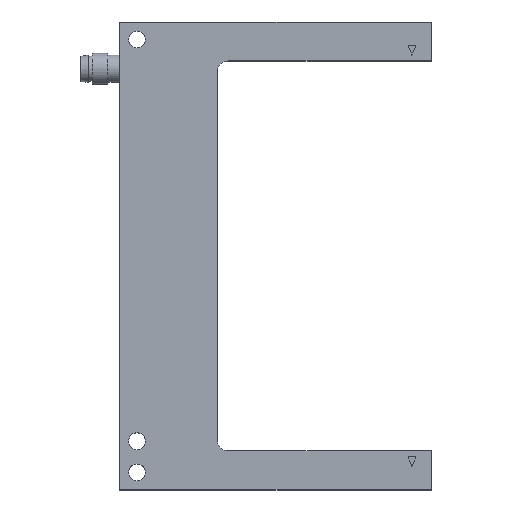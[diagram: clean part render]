
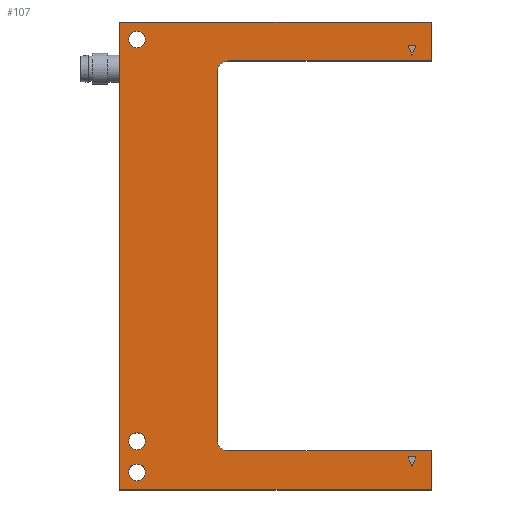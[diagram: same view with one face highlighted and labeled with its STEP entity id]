
A CAD part, top view. The second image highlights one B-rep face of the part: STEP entity #107.
In plain terms, the highlighted planar face has unit normal (0, 0, 1).
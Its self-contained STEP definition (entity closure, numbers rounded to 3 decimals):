
#107=ADVANCED_FACE('',(#216,#217,#218,#219,#220,#221),#143,.T.);
#143=PLANE('',#749);
#152=CIRCLE('',#697,3.);
#153=CIRCLE('',#699,2.15);
#155=CIRCLE('',#702,2.15);
#157=CIRCLE('',#705,2.15);
#172=CIRCLE('',#748,3.);
#216=FACE_BOUND('',#290,.T.);
#217=FACE_BOUND('',#291,.T.);
#218=FACE_BOUND('',#292,.T.);
#219=FACE_BOUND('',#293,.T.);
#220=FACE_BOUND('',#294,.T.);
#221=FACE_BOUND('',#295,.T.);
#290=EDGE_LOOP('',(#426,#427,#428,#429,#430,#431,#432,#433,#434,#435));
#291=EDGE_LOOP('',(#436,#437,#438));
#292=EDGE_LOOP('',(#439,#440,#441));
#293=EDGE_LOOP('',(#442));
#294=EDGE_LOOP('',(#443));
#295=EDGE_LOOP('',(#444));
#426=ORIENTED_EDGE('',*,*,#580,.F.);
#427=ORIENTED_EDGE('',*,*,#591,.F.);
#428=ORIENTED_EDGE('',*,*,#558,.F.);
#429=ORIENTED_EDGE('',*,*,#589,.F.);
#430=ORIENTED_EDGE('',*,*,#586,.F.);
#431=ORIENTED_EDGE('',*,*,#583,.F.);
#432=ORIENTED_EDGE('',*,*,#538,.F.);
#433=ORIENTED_EDGE('',*,*,#535,.F.);
#434=ORIENTED_EDGE('',*,*,#594,.T.);
#435=ORIENTED_EDGE('',*,*,#528,.F.);
#436=ORIENTED_EDGE('',*,*,#564,.T.);
#437=ORIENTED_EDGE('',*,*,#570,.T.);
#438=ORIENTED_EDGE('',*,*,#567,.T.);
#439=ORIENTED_EDGE('',*,*,#573,.T.);
#440=ORIENTED_EDGE('',*,*,#579,.T.);
#441=ORIENTED_EDGE('',*,*,#576,.T.);
#442=ORIENTED_EDGE('',*,*,#544,.T.);
#443=ORIENTED_EDGE('',*,*,#542,.T.);
#444=ORIENTED_EDGE('',*,*,#540,.T.);
#468=VERTEX_POINT('',#975);
#469=VERTEX_POINT('',#976);
#475=VERTEX_POINT('',#989);
#476=VERTEX_POINT('',#991);
#478=VERTEX_POINT('',#997);
#479=VERTEX_POINT('',#1001);
#481=VERTEX_POINT('',#1006);
#483=VERTEX_POINT('',#1011);
#497=VERTEX_POINT('',#1049);
#498=VERTEX_POINT('',#1050);
#503=VERTEX_POINT('',#1063);
#504=VERTEX_POINT('',#1065);
#506=VERTEX_POINT('',#1071);
#509=VERTEX_POINT('',#1082);
#510=VERTEX_POINT('',#1084);
#512=VERTEX_POINT('',#1090);
#513=VERTEX_POINT('',#1098);
#515=VERTEX_POINT('',#1104);
#517=VERTEX_POINT('',#1110);
#528=EDGE_CURVE('',#468,#469,#604,.T.);
#535=EDGE_CURVE('',#475,#476,#610,.T.);
#538=EDGE_CURVE('',#476,#478,#152,.T.);
#540=EDGE_CURVE('',#479,#479,#153,.T.);
#542=EDGE_CURVE('',#481,#481,#155,.T.);
#544=EDGE_CURVE('',#483,#483,#157,.T.);
#558=EDGE_CURVE('',#497,#498,#613,.T.);
#564=EDGE_CURVE('',#504,#503,#619,.T.);
#567=EDGE_CURVE('',#506,#504,#622,.T.);
#570=EDGE_CURVE('',#503,#506,#625,.T.);
#573=EDGE_CURVE('',#510,#509,#628,.T.);
#576=EDGE_CURVE('',#512,#510,#631,.T.);
#579=EDGE_CURVE('',#509,#512,#634,.T.);
#580=EDGE_CURVE('',#513,#468,#635,.T.);
#583=EDGE_CURVE('',#478,#515,#638,.T.);
#586=EDGE_CURVE('',#515,#517,#641,.T.);
#589=EDGE_CURVE('',#517,#497,#644,.T.);
#591=EDGE_CURVE('',#498,#513,#646,.T.);
#594=EDGE_CURVE('',#475,#469,#172,.T.);
#604=LINE('',#974,#648);
#610=LINE('',#990,#654);
#613=LINE('',#1048,#657);
#619=LINE('',#1064,#663);
#622=LINE('',#1070,#666);
#625=LINE('',#1075,#669);
#628=LINE('',#1083,#672);
#631=LINE('',#1089,#675);
#634=LINE('',#1094,#678);
#635=LINE('',#1097,#679);
#638=LINE('',#1103,#682);
#641=LINE('',#1109,#685);
#644=LINE('',#1115,#688);
#646=LINE('',#1119,#690);
#648=VECTOR('',#773,1.);
#654=VECTOR('',#783,1.);
#657=VECTOR('',#854,1.);
#663=VECTOR('',#866,1.);
#666=VECTOR('',#871,1.);
#669=VECTOR('',#876,1.);
#672=VECTOR('',#883,1.);
#675=VECTOR('',#888,1.);
#678=VECTOR('',#893,1.);
#679=VECTOR('',#898,1.);
#682=VECTOR('',#903,1.);
#685=VECTOR('',#908,1.);
#688=VECTOR('',#913,1.);
#690=VECTOR('',#919,1.);
#697=AXIS2_PLACEMENT_3D('',#996,#789,#790);
#699=AXIS2_PLACEMENT_3D('',#1000,#794,#795);
#702=AXIS2_PLACEMENT_3D('',#1005,#800,#801);
#705=AXIS2_PLACEMENT_3D('',#1010,#806,#807);
#748=AXIS2_PLACEMENT_3D('',#1124,#927,#928);
#749=AXIS2_PLACEMENT_3D('',#1125,#929,#930);
#773=DIRECTION('',(-1.,0.,0.));
#783=DIRECTION('',(0.,-1.,0.));
#789=DIRECTION('',(0.,0.,1.));
#790=DIRECTION('',(-0.707,-0.707,0.));
#794=DIRECTION('',(0.,0.,-1.));
#795=DIRECTION('',(-1.,0.,0.));
#800=DIRECTION('',(0.,0.,-1.));
#801=DIRECTION('',(-1.,0.,0.));
#806=DIRECTION('',(0.,0.,-1.));
#807=DIRECTION('',(-1.,0.,0.));
#854=DIRECTION('',(0.,1.,0.));
#866=DIRECTION('',(-0.371,-0.928,0.));
#871=DIRECTION('',(1.,0.,0.));
#876=DIRECTION('',(-0.371,0.928,0.));
#883=DIRECTION('',(1.,0.,0.));
#888=DIRECTION('',(-0.371,0.928,0.));
#893=DIRECTION('',(-0.371,-0.928,0.));
#898=DIRECTION('',(0.,-1.,0.));
#903=DIRECTION('',(1.,0.,0.));
#908=DIRECTION('',(0.,-1.,0.));
#913=DIRECTION('',(-1.,0.,0.));
#919=DIRECTION('',(1.,0.,0.));
#927=DIRECTION('',(0.,0.,-1.));
#928=DIRECTION('',(1.,0.,0.));
#929=DIRECTION('',(0.,0.,1.));
#930=DIRECTION('',(-1.,0.,0.));
#974=CARTESIAN_POINT('',(48.54,15.013,10.));
#975=CARTESIAN_POINT('',(48.54,15.013,10.));
#976=CARTESIAN_POINT('',(-3.46,15.013,10.));
#989=CARTESIAN_POINT('',(-6.46,12.013,10.));
#990=CARTESIAN_POINT('',(-6.46,15.013,10.));
#991=CARTESIAN_POINT('',(-6.46,-81.987,10.));
#996=CARTESIAN_POINT('',(-3.46,-81.987,10.));
#997=CARTESIAN_POINT('',(-3.46,-84.987,10.));
#1000=CARTESIAN_POINT('',(-26.96,-82.487,10.));
#1001=CARTESIAN_POINT('',(-29.11,-82.487,10.));
#1005=CARTESIAN_POINT('',(-26.96,-90.487,10.));
#1006=CARTESIAN_POINT('',(-29.11,-90.487,10.));
#1010=CARTESIAN_POINT('',(-26.96,20.513,10.));
#1011=CARTESIAN_POINT('',(-29.11,20.513,10.));
#1048=CARTESIAN_POINT('',(-31.46,-94.987,10.));
#1049=CARTESIAN_POINT('',(-31.46,-94.987,10.));
#1050=CARTESIAN_POINT('',(-31.46,25.013,10.));
#1063=CARTESIAN_POINT('',(43.54,16.513,10.));
#1064=CARTESIAN_POINT('',(44.54,19.013,10.));
#1065=CARTESIAN_POINT('',(44.54,19.013,10.));
#1070=CARTESIAN_POINT('',(42.54,19.013,10.));
#1071=CARTESIAN_POINT('',(42.54,19.013,10.));
#1075=CARTESIAN_POINT('',(43.54,16.513,10.));
#1082=CARTESIAN_POINT('',(44.54,-86.487,10.));
#1083=CARTESIAN_POINT('',(42.54,-86.487,10.));
#1084=CARTESIAN_POINT('',(42.54,-86.487,10.));
#1089=CARTESIAN_POINT('',(43.54,-88.987,10.));
#1090=CARTESIAN_POINT('',(43.54,-88.987,10.));
#1094=CARTESIAN_POINT('',(44.54,-86.487,10.));
#1097=CARTESIAN_POINT('',(48.54,25.013,10.));
#1098=CARTESIAN_POINT('',(48.54,25.013,10.));
#1103=CARTESIAN_POINT('',(-6.46,-84.987,10.));
#1104=CARTESIAN_POINT('',(48.54,-84.987,10.));
#1109=CARTESIAN_POINT('',(48.54,-84.987,10.));
#1110=CARTESIAN_POINT('',(48.54,-94.987,10.));
#1115=CARTESIAN_POINT('',(48.54,-94.987,10.));
#1119=CARTESIAN_POINT('',(-31.46,25.013,10.));
#1124=CARTESIAN_POINT('',(-3.46,12.013,10.));
#1125=CARTESIAN_POINT('',(0.452,-34.987,10.));
